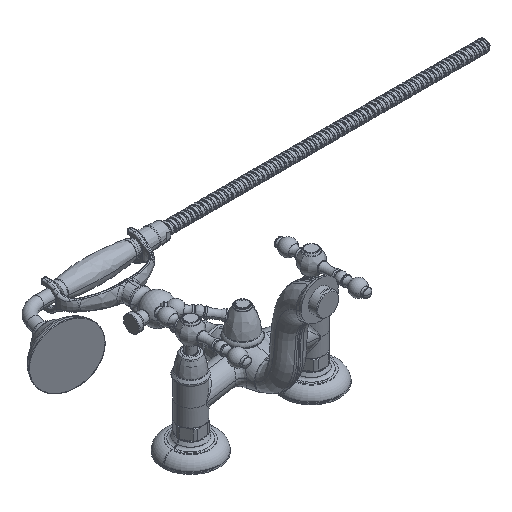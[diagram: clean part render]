
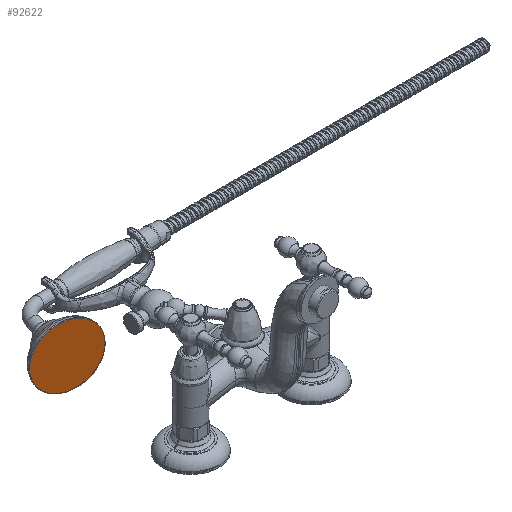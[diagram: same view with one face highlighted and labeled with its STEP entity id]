
A CAD part, isometric view. The second image highlights one B-rep face of the part: STEP entity #92622.
In plain terms, the highlighted planar face has unit normal (-0.259, -0.966, 0).
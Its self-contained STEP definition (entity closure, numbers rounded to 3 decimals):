
#65416=CARTESIAN_POINT('',(-106.784,111.136,0.));
#65417=DIRECTION('',(-0.259,-0.966,0.));
#65418=DIRECTION('',(-0.966,0.259,0.));
#65419=AXIS2_PLACEMENT_3D('',#65416,#65417,#65418);
#65421=CARTESIAN_POINT('',(-106.784,111.136,0.));
#65422=DIRECTION('',(-0.259,-0.966,0.));
#65423=DIRECTION('',(0.966,-0.259,0.));
#65424=AXIS2_PLACEMENT_3D('',#65421,#65422,#65423);
#85565=CARTESIAN_POINT('',(-143.826,121.061,0.));
#85566=CARTESIAN_POINT('',(-69.742,101.21,
0.));
#85567=VERTEX_POINT('',#85565);
#85568=VERTEX_POINT('',#85566);
#92612=CARTESIAN_POINT('',(-106.784,111.136,0.));
#92613=DIRECTION('',(0.259,0.966,0.));
#92614=DIRECTION('',(0.966,-0.259,0.));
#92615=AXIS2_PLACEMENT_3D('',#92612,#92613,#92614);
#92616=PLANE('',#92615);
#92617=ORIENTED_EDGE('',*,*,#92602,.F.);
#92619=ORIENTED_EDGE('',*,*,#92618,.F.);
#92620=EDGE_LOOP('',(#92617,#92619));
#92621=FACE_OUTER_BOUND('',#92620,.F.);
#92622=ADVANCED_FACE('',(#92621),#92616,.F.);
#65420=CIRCLE('',#65419,38.348);
#65425=CIRCLE('',#65424,38.348);
#92602=EDGE_CURVE('',#85567,#85568,#65420,.T.);
#92618=EDGE_CURVE('',#85568,#85567,#65425,.T.);
